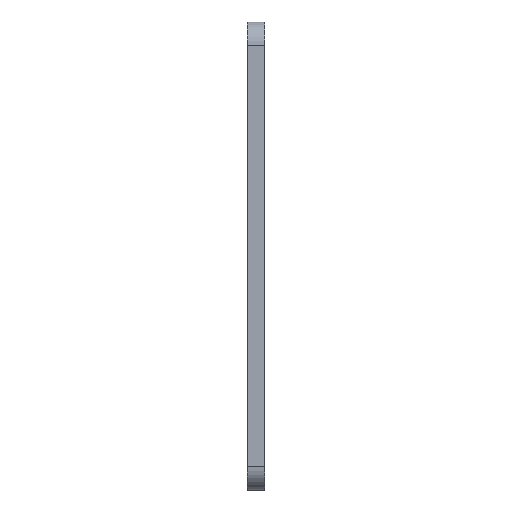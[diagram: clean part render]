
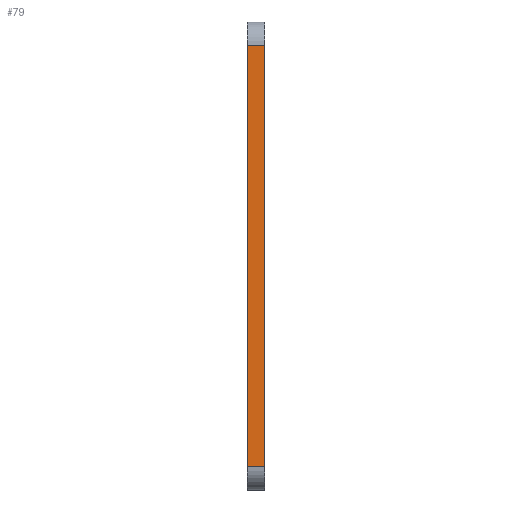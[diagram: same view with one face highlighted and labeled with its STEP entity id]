
A CAD part, left-side view. The second image highlights one B-rep face of the part: STEP entity #79.
In plain terms, the highlighted planar face has unit normal (-1, 0, 0).
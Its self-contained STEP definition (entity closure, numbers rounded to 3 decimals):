
#25 = VECTOR ( 'NONE', #612, 1000. ) ;
#32 = CARTESIAN_POINT ( 'NONE',  ( -60., 4.5, -54. ) ) ;
#54 = EDGE_CURVE ( 'NONE', #141, #1047, #412, .T. ) ;
#79 = ADVANCED_FACE ( 'NONE', ( #196 ), #515, .F. ) ;
#103 = DIRECTION ( 'NONE',  ( 0., 0., -1. ) ) ;
#141 = VERTEX_POINT ( 'NONE', #32 ) ;
#190 = ORIENTED_EDGE ( 'NONE', *, *, #1084, .T. ) ;
#194 = CARTESIAN_POINT ( 'NONE',  ( -60., 4.5, -54. ) ) ;
#196 = FACE_OUTER_BOUND ( 'NONE', #971, .T. ) ;
#201 = CARTESIAN_POINT ( 'NONE',  ( -60., 0., -54. ) ) ;
#308 = CARTESIAN_POINT ( 'NONE',  ( -60., 4.5, -54. ) ) ;
#312 = EDGE_CURVE ( 'NONE', #547, #374, #1245, .T. ) ;
#374 = VERTEX_POINT ( 'NONE', #1243 ) ;
#390 = LINE ( 'NONE', #975, #1099 ) ;
#412 = LINE ( 'NONE', #308, #25 ) ;
#494 = DIRECTION ( 'NONE',  ( 0., 0., 1. ) ) ;
#515 = PLANE ( 'NONE',  #749 ) ;
#547 = VERTEX_POINT ( 'NONE', #639 ) ;
#584 = CARTESIAN_POINT ( 'NONE',  ( -60., 4.5, 54. ) ) ;
#592 = LINE ( 'NONE', #194, #647 ) ;
#600 = CARTESIAN_POINT ( 'NONE',  ( -60., 4.5, -54. ) ) ;
#612 = DIRECTION ( 'NONE',  ( 0., -1., 0. ) ) ;
#639 = CARTESIAN_POINT ( 'NONE',  ( -60., 4.5, 54. ) ) ;
#647 = VECTOR ( 'NONE', #494, 1000. ) ;
#690 = DIRECTION ( 'NONE',  ( 0., 0., 1. ) ) ;
#749 = AXIS2_PLACEMENT_3D ( 'NONE', #600, #984, #103 ) ;
#778 = EDGE_CURVE ( 'NONE', #141, #547, #592, .T. ) ;
#810 = ORIENTED_EDGE ( 'NONE', *, *, #778, .F. ) ;
#971 = EDGE_LOOP ( 'NONE', ( #190, #974, #810, #1112 ) ) ;
#974 = ORIENTED_EDGE ( 'NONE', *, *, #312, .F. ) ;
#975 = CARTESIAN_POINT ( 'NONE',  ( -60., 0., -54. ) ) ;
#984 = DIRECTION ( 'NONE',  ( 1., 0., 0. ) ) ;
#1047 = VERTEX_POINT ( 'NONE', #201 ) ;
#1084 = EDGE_CURVE ( 'NONE', #1047, #374, #390, .T. ) ;
#1099 = VECTOR ( 'NONE', #690, 1000. ) ;
#1112 = ORIENTED_EDGE ( 'NONE', *, *, #54, .T. ) ;
#1155 = VECTOR ( 'NONE', #1234, 1000. ) ;
#1234 = DIRECTION ( 'NONE',  ( 0., -1., 0. ) ) ;
#1243 = CARTESIAN_POINT ( 'NONE',  ( -60., 0., 54. ) ) ;
#1245 = LINE ( 'NONE', #584, #1155 ) ;
